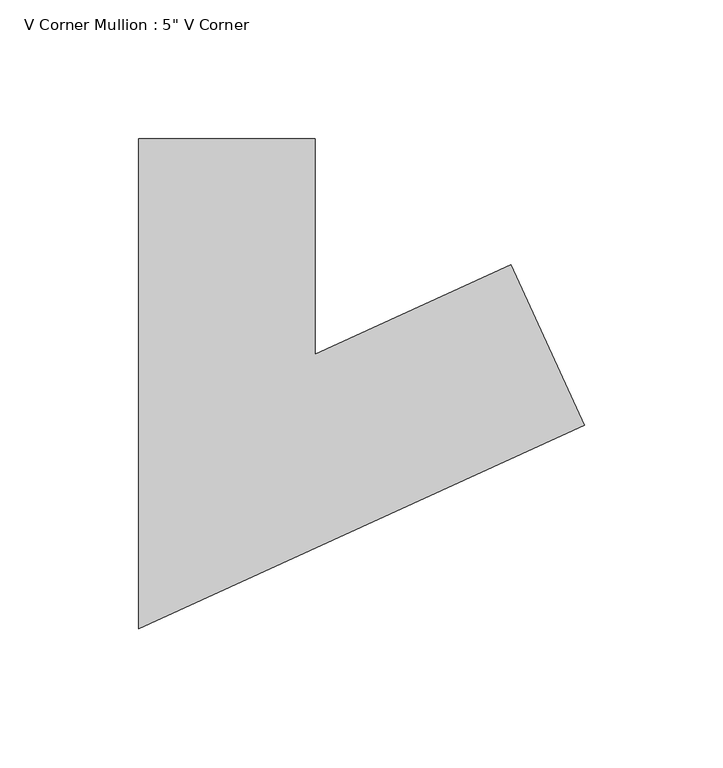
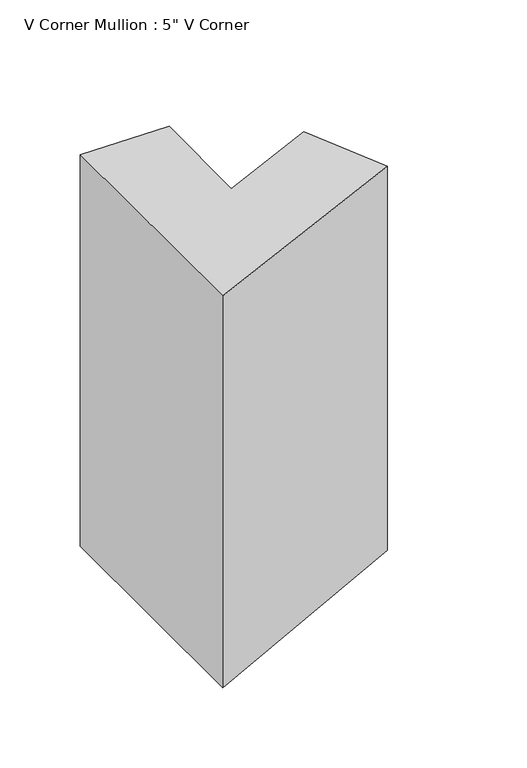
"""IFC4 building model written with IfcOpenShell, lengths in millimetres: member geometry."""

from ifc_helpers import new_model, si_unit, origin, place, context, project, spatial, faceted_brep, source, transform, mapped, element, save


def member_8a14c637(model_context):
    return source(origin(), model_context, "Body", "Brep", [
        faceted_brep([(61.49523, 18.2208415, -0.9204898), (87.9205542, -39.5195451, -1.3160366), (87.9205542, -39.5195451, -292.7644979), (61.49523, 18.2208415, -293.309569), (-9.0228811, -14.0523047, 0.1350588), (-9.0228811, -14.0523047, -294.7641354), (-9.0228811, 63.5, 0.1350588), (-9.0228811, 63.5, -294.7641354), (-72.5228811, 63.5, 1.0855569), (-72.5228811, 63.5, -296.0739402), (-72.5228811, -112.9476953, 1.0855569), (-72.5228811, -112.9476953, -296.0739402)], [[[0, 1, 2, 3]], [[4, 0, 3, 5]], [[6, 4, 5, 7]], [[8, 6, 7, 9]], [[10, 8, 9, 11]], [[1, 10, 11, 2]], [[1, 0, 4, 6, 8, 10]], [[2, 11, 9, 7, 5, 3]]]),
    ])


if __name__ == "__main__":
    model = new_model("IFC4")
    model_context = context("Model", 3, world=origin())
    ifc_project = project(units=[si_unit("LENGTHUNIT", "METRE", prefix="MILLI")], contexts=[model_context])
    site = spatial("IfcSite", under=ifc_project)
    building = spatial("IfcBuilding", under=site)
    placement = place(None, origin())
    member_shape = member_8a14c637(model_context)
    element("IfcMember", 1, ObjectType="V Corner Mullion : 5\" V Corner", at=placement, inside=building, context=model_context, shape_type="MappedRepresentation", body=[
        mapped(member_shape, transform((0.0, 0.0, 0.0), x_axis=(1.0, 0.0, 0.0), y_axis=(0.0, 1.0, 0.0), z_axis=(0.0, 0.0, 1.0))),
    ])
    save(model, "model.ifc")
